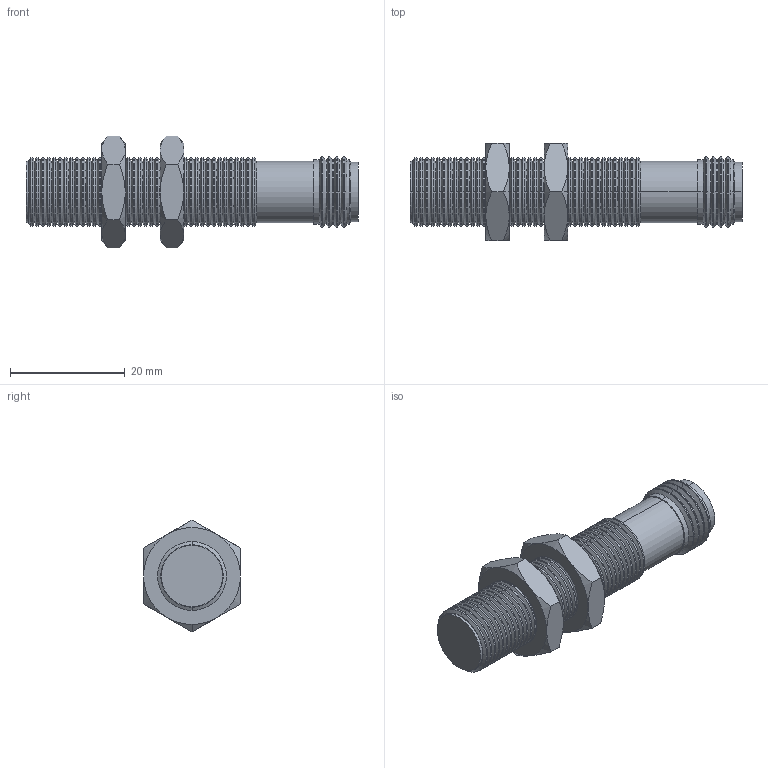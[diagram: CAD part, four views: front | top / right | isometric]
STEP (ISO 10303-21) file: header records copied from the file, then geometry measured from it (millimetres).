
FILE_DESCRIPTION (( 'STEP AP203' ), '1' );
FILE_NAME ('90-XXXX-005.STEP', '2015-10-28T13:08:24', ( 'Sam' ), ( 'Spade' ), 'SwSTEP 2.0', 'SolidWorks 2002296', '' );
FILE_SCHEMA (( 'CONFIG_CONTROL_DESIGN' ));
Length unit declared in the file: inch
Products named in the file (9): 90-XXXX-005; Imported46; Imported45; Imported44; Imported43; Imported47; Imported42; Imported41; Imported40
Assembly tree (8 placements, depth 2):
  90-XXXX-005
    Imported43
    Imported40
    Imported45
    Imported44
    Imported42
    Imported47
    Imported46
    Imported41
Bounding box: 57.76 x 16.87 x 19.47 mm (x, y, z)
Volume: 6593.6 mm3; surface area: 5561.5 mm2
Topology: 8 solids, 8 shells, 412 faces, 851 edges, 457 vertices
Faces by surface type: cone 246, cylinder 123, plane 37, bspline 6
Entity records: 11752 total; most frequent: DIRECTION 2059, CARTESIAN_POINT 2007, ORIENTED_EDGE 1690, EDGE_CURVE 845, AXIS2_PLACEMENT_3D 845, VERTEX_POINT 457, CIRCLE 428, EDGE_LOOP 424
